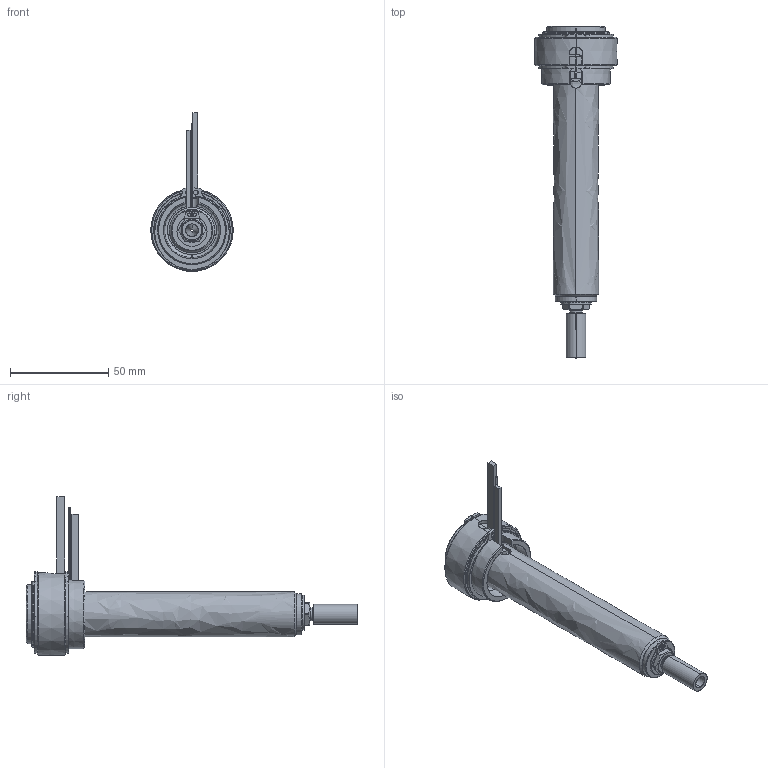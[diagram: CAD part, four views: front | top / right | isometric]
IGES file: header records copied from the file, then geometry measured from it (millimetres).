
Start section: SolidWorks IGES file using analytic representation for surfaces
Global section: file name: C:\Users\luca.EMPAD\Desktop\TEM\UGBE3503-M-A-P-5 [Ød-1.5 P-20 ØC-6.0].IGS; native system: SolidWorks 2012; preprocessor: SolidWorks 2012; author: luca; date: 120330.135700; units: millimetre
Bounding box: 42 x 169 x 80.9 mm (x, y, z)
Surface area: 37582.5 mm2 (no closed solid volume)
Topology: 0 solids, 0 shells, 188 faces, 3334 edges, 3334 vertices
Faces by surface type: revolution 121, bspline 67
